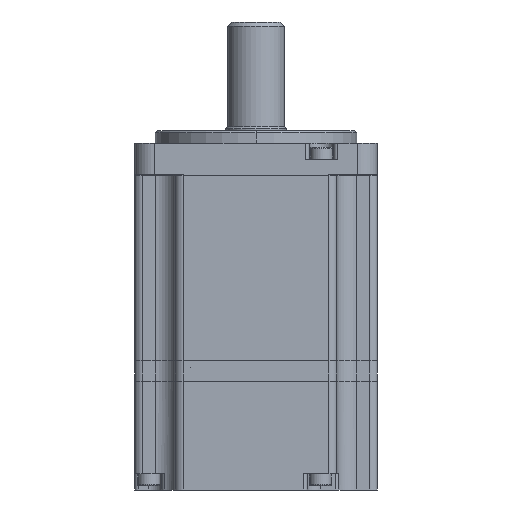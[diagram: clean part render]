
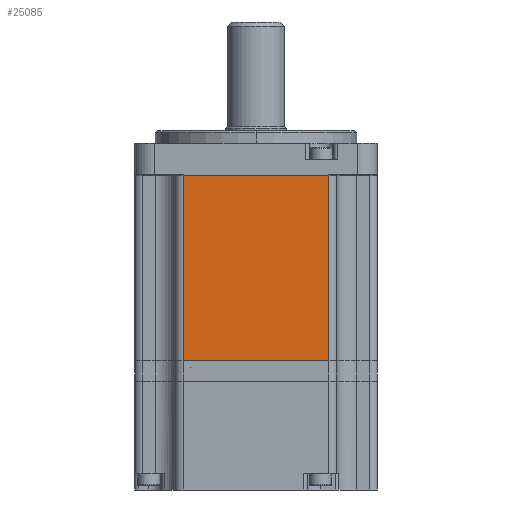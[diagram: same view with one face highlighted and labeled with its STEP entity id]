
A CAD part, front view. The second image highlights one B-rep face of the part: STEP entity #25085.
In plain terms, the highlighted planar face has unit normal (0, -1, 0).
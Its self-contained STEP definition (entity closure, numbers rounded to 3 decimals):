
#602 = CARTESIAN_POINT ( 'NONE',  ( -20., -30.1, 46. ) ) ;
#603 = DIRECTION ( 'NONE',  ( 1., 0., 0. ) ) ;
#641 = DIRECTION ( 'NONE',  ( 1., 0., 0. ) ) ;
#646 = CARTESIAN_POINT ( 'NONE',  ( -20., -30.1, 0. ) ) ;
#762 = CARTESIAN_POINT ( 'NONE',  ( 18., -30.1, 46. ) ) ;
#768 = CARTESIAN_POINT ( 'NONE',  ( -18., -30.1, 46. ) ) ;
#2073 = LINE ( 'NONE', #602, #2077 ) ;
#2077 = VECTOR ( 'NONE', #603, 1000. ) ;
#2116 = LINE ( 'NONE', #646, #2120 ) ;
#2120 = VECTOR ( 'NONE', #641, 1000. ) ;
#2185 = LINE ( 'NONE', #5553, #2192 ) ;
#2190 = LINE ( 'NONE', #5555, #2196 ) ;
#2192 = VECTOR ( 'NONE', #5554, 1000. ) ;
#2196 = VECTOR ( 'NONE', #5556, 1000. ) ;
#5553 = CARTESIAN_POINT ( 'NONE',  ( 18., -30.1, 46. ) ) ;
#5554 = DIRECTION ( 'NONE',  ( 0., 0., 1. ) ) ;
#5555 = CARTESIAN_POINT ( 'NONE',  ( -18., -30.1, 46. ) ) ;
#5556 = DIRECTION ( 'NONE',  ( 0., 0., -1. ) ) ;
#19551 = CARTESIAN_POINT ( 'NONE',  ( 18., -30.1, 0. ) ) ;
#19555 = CARTESIAN_POINT ( 'NONE',  ( -18., -30.1, 0. ) ) ;
#23448 = VERTEX_POINT ( 'NONE', #768 ) ;
#23468 = VERTEX_POINT ( 'NONE', #762 ) ;
#25085 = ADVANCED_FACE ( 'NONE', ( #34982 ), #33050, .F. ) ;
#27266 = AXIS2_PLACEMENT_3D ( 'NONE', #33042, #33054, #33056 ) ;
#31871 = EDGE_CURVE ( 'NONE', #23448, #23468, #2073, .T. ) ;
#31886 = EDGE_CURVE ( 'NONE', #41146, #41142, #2116, .T. ) ;
#31907 = EDGE_CURVE ( 'NONE', #41142, #23468, #2185, .T. ) ;
#31908 = EDGE_CURVE ( 'NONE', #23448, #41146, #2190, .T. ) ;
#33042 = CARTESIAN_POINT ( 'NONE',  ( -20., -30.1, 46. ) ) ;
#33050 = PLANE ( 'NONE',  #27266 ) ;
#33054 = DIRECTION ( 'NONE',  ( 0., 1., 0. ) ) ;
#33056 = DIRECTION ( 'NONE',  ( 0., 0., 1. ) ) ;
#34982 = FACE_OUTER_BOUND ( 'NONE', #41122, .T. ) ;
#35167 = ORIENTED_EDGE ( 'NONE', *, *, #31886, .T. ) ;
#35169 = ORIENTED_EDGE ( 'NONE', *, *, #31907, .T. ) ;
#35170 = ORIENTED_EDGE ( 'NONE', *, *, #31871, .F. ) ;
#35172 = ORIENTED_EDGE ( 'NONE', *, *, #31908, .T. ) ;
#41122 = EDGE_LOOP ( 'NONE', ( #35167, #35169, #35170, #35172 ) ) ;
#41142 = VERTEX_POINT ( 'NONE', #19551 ) ;
#41146 = VERTEX_POINT ( 'NONE', #19555 ) ;
